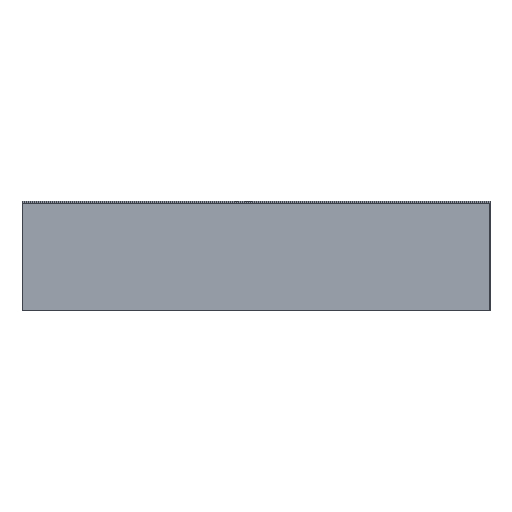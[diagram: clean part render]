
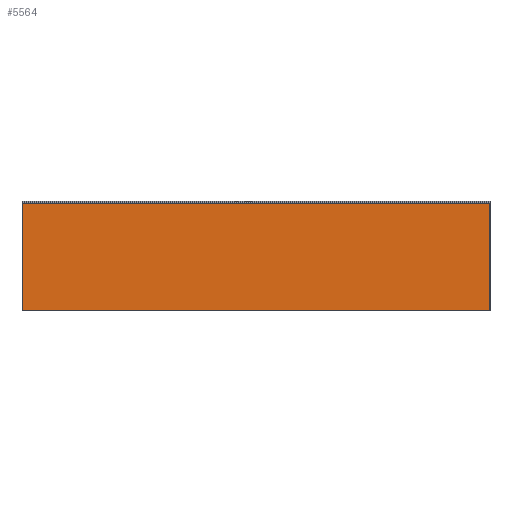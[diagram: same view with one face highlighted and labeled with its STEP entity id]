
A CAD part, top view. The second image highlights one B-rep face of the part: STEP entity #5564.
In plain terms, the highlighted planar face has unit normal (0, 0, 1).
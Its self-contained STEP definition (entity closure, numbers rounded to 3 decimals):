
#386=FACE_OUTER_BOUND('',#705,.T.);
#705=EDGE_LOOP('',(#3507,#3508,#3509,#3510));
#1051=LINE('',#8084,#1618);
#1055=LINE('',#8092,#1622);
#1058=LINE('',#8098,#1625);
#1062=LINE('',#8104,#1629);
#1618=VECTOR('',#6467,10.);
#1622=VECTOR('',#6473,10.);
#1625=VECTOR('',#6478,10.);
#1629=VECTOR('',#6484,10.);
#2176=VERTEX_POINT('',#8082);
#2177=VERTEX_POINT('',#8083);
#2180=VERTEX_POINT('',#8091);
#2182=VERTEX_POINT('',#8097);
#2679=EDGE_CURVE('',#2176,#2177,#1051,.T.);
#2683=EDGE_CURVE('',#2177,#2180,#1055,.T.);
#2686=EDGE_CURVE('',#2180,#2182,#1058,.T.);
#2690=EDGE_CURVE('',#2182,#2176,#1062,.T.);
#3507=ORIENTED_EDGE('',*,*,#2679,.F.);
#3508=ORIENTED_EDGE('',*,*,#2690,.F.);
#3509=ORIENTED_EDGE('',*,*,#2686,.F.);
#3510=ORIENTED_EDGE('',*,*,#2683,.F.);
#5025=PLANE('',#5913);
#5564=ADVANCED_FACE('',(#386),#5025,.T.);
#5913=AXIS2_PLACEMENT_3D('',#8115,#6494,#6495);
#6467=DIRECTION('',(-1.,0.,0.));
#6473=DIRECTION('',(0.,1.,0.));
#6478=DIRECTION('',(1.,0.,0.));
#6484=DIRECTION('',(0.,-1.,0.));
#6494=DIRECTION('center_axis',(0.,0.,
1.));
#6495=DIRECTION('ref_axis',(1.,0.,0.));
#8082=CARTESIAN_POINT('',(324.5,-74.895,4.3));
#8083=CARTESIAN_POINT('',(-324.5,-74.895,4.3));
#8084=CARTESIAN_POINT('',(-162.5,-74.895,4.3));
#8091=CARTESIAN_POINT('',(-324.5,74.105,4.3));
#8092=CARTESIAN_POINT('',(-324.5,37.105,4.3));
#8097=CARTESIAN_POINT('',(324.5,74.105,4.3));
#8098=CARTESIAN_POINT('',(162.5,74.105,4.3));
#8104=CARTESIAN_POINT('',(324.5,-37.895,4.3));
#8115=CARTESIAN_POINT('Origin',(0.,-0.395,
4.3));
